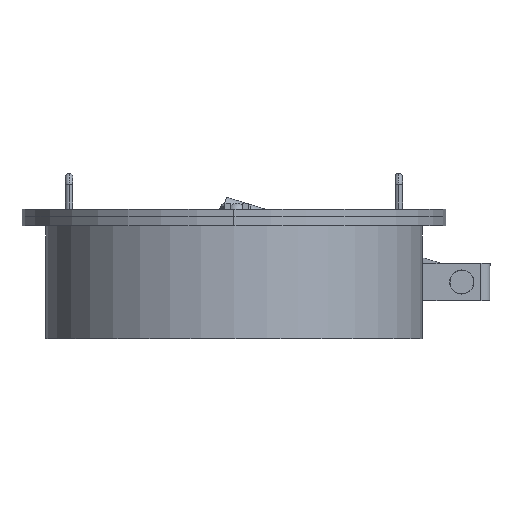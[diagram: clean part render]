
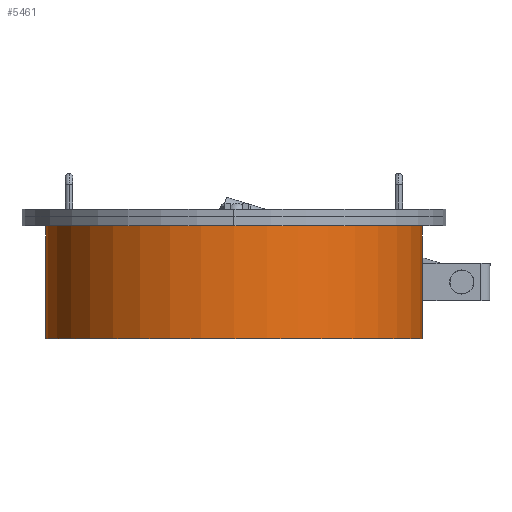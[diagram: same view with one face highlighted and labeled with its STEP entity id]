
A CAD part, front view. The second image highlights one B-rep face of the part: STEP entity #5461.
In plain terms, the highlighted cylindrical face has radius 400 mm (diameter 800 mm), a partial arc.
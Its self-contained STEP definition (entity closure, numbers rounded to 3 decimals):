
#163 = AXIS2_PLACEMENT_3D ( 'NONE', #264, #5765, #1055 ) ;
#248 = EDGE_CURVE ( 'NONE', #527, #8908, #283, .T. ) ;
#264 = CARTESIAN_POINT ( 'NONE',  ( 0., 0., 0. ) ) ;
#283 = LINE ( 'NONE', #9512, #2145 ) ;
#527 = VERTEX_POINT ( 'NONE', #9673 ) ;
#1055 = DIRECTION ( 'NONE',  ( 1., 0., 0. ) ) ;
#1071 = FACE_OUTER_BOUND ( 'NONE', #3537, .T. ) ;
#1275 = AXIS2_PLACEMENT_3D ( 'NONE', #6796, #2101, #7582 ) ;
#1537 = DIRECTION ( 'NONE',  ( -1., 0., 0. ) ) ;
#1626 = ORIENTED_EDGE ( 'NONE', *, *, #9299, .F. ) ;
#1784 = DIRECTION ( 'NONE',  ( 0., 0., -1. ) ) ;
#1860 = CIRCLE ( 'NONE', #1275, 400. ) ;
#2101 = DIRECTION ( 'NONE',  ( 0., 0., 1. ) ) ;
#2145 = VECTOR ( 'NONE', #1784, 1000. ) ;
#2291 = ORIENTED_EDGE ( 'NONE', *, *, #4482, .F. ) ;
#3537 = EDGE_LOOP ( 'NONE', ( #2291, #1626, #5355, #5391 ) ) ;
#3551 = EDGE_CURVE ( 'NONE', #8908, #7685, #3938, .T. ) ;
#3660 = VERTEX_POINT ( 'NONE', #4319 ) ;
#3938 = CIRCLE ( 'NONE', #163, 400. ) ;
#4319 = CARTESIAN_POINT ( 'NONE',  ( 400., 0., 250. ) ) ;
#4482 = EDGE_CURVE ( 'NONE', #3660, #7685, #6141, .T. ) ;
#5005 = CYLINDRICAL_SURFACE ( 'NONE', #8550, 400. ) ;
#5355 = ORIENTED_EDGE ( 'NONE', *, *, #248, .T. ) ;
#5391 = ORIENTED_EDGE ( 'NONE', *, *, #3551, .T. ) ;
#5461 = ADVANCED_FACE ( 'NONE', ( #1071 ), #5005, .T. ) ;
#5765 = DIRECTION ( 'NONE',  ( 0., 0., 1. ) ) ;
#5842 = CARTESIAN_POINT ( 'NONE',  ( 400., 0., 0. ) ) ;
#6141 = LINE ( 'NONE', #7189, #8192 ) ;
#6239 = CARTESIAN_POINT ( 'NONE',  ( 0., 0., 250. ) ) ;
#6796 = CARTESIAN_POINT ( 'NONE',  ( 0., 0., 250. ) ) ;
#7189 = CARTESIAN_POINT ( 'NONE',  ( 400., 0., 250. ) ) ;
#7582 = DIRECTION ( 'NONE',  ( 1., 0., 0. ) ) ;
#7685 = VERTEX_POINT ( 'NONE', #5842 ) ;
#7968 = DIRECTION ( 'NONE',  ( 0., 0., -1. ) ) ;
#8192 = VECTOR ( 'NONE', #7968, 1000. ) ;
#8550 = AXIS2_PLACEMENT_3D ( 'NONE', #6239, #9307, #1537 ) ;
#8908 = VERTEX_POINT ( 'NONE', #8909 ) ;
#8909 = CARTESIAN_POINT ( 'NONE',  ( -400., 0., 0. ) ) ;
#9299 = EDGE_CURVE ( 'NONE', #527, #3660, #1860, .T. ) ;
#9307 = DIRECTION ( 'NONE',  ( 0., 0., -1. ) ) ;
#9512 = CARTESIAN_POINT ( 'NONE',  ( -400., 0., 250. ) ) ;
#9673 = CARTESIAN_POINT ( 'NONE',  ( -400., 0., 250. ) ) ;
